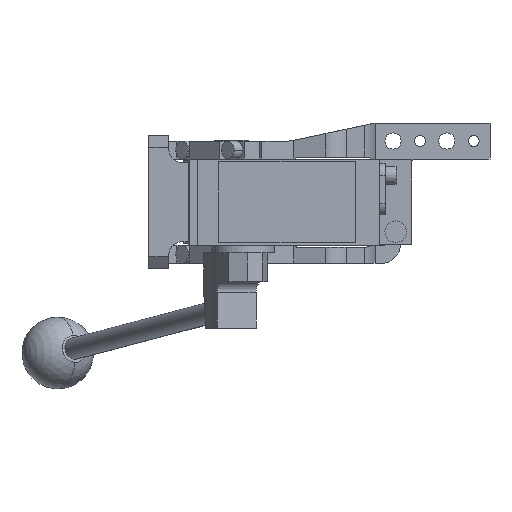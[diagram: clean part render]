
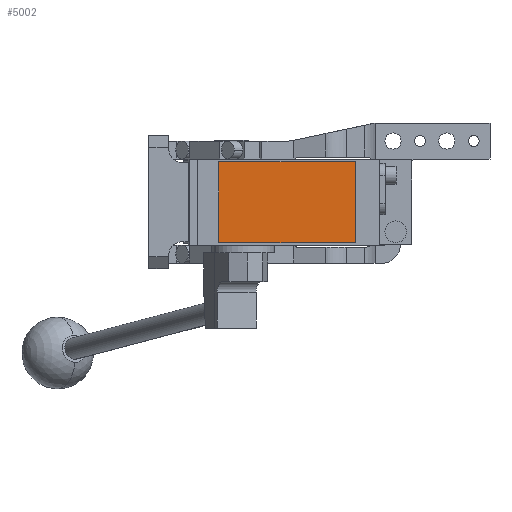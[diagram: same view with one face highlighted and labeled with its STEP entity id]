
A CAD part, front view. The second image highlights one B-rep face of the part: STEP entity #5002.
In plain terms, the highlighted planar face has unit normal (0, -1, 0).
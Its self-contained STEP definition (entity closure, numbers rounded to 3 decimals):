
#44 = LINE ( 'NONE', #8485, #4447 ) ;
#183 = EDGE_LOOP ( 'NONE', ( #1785, #4695, #2662, #9644 ) ) ;
#1282 = EDGE_CURVE ( 'NONE', #6313, #8263, #44, .T. ) ;
#1354 = PLANE ( 'NONE',  #14643 ) ;
#1785 = ORIENTED_EDGE ( 'NONE', *, *, #9894, .T. ) ;
#2582 = CARTESIAN_POINT ( 'NONE',  ( -7., -280.5, -22.5 ) ) ;
#2662 = ORIENTED_EDGE ( 'NONE', *, *, #5509, .T. ) ;
#2906 = VECTOR ( 'NONE', #3226, 1000. ) ;
#3226 = DIRECTION ( 'NONE',  ( 0., 0., -1. ) ) ;
#3658 = CARTESIAN_POINT ( 'NONE',  ( 0., -280.5, 0. ) ) ;
#3747 = DIRECTION ( 'NONE',  ( 0., 0., -1. ) ) ;
#4447 = VECTOR ( 'NONE', #8737, 1000. ) ;
#4695 = ORIENTED_EDGE ( 'NONE', *, *, #7982, .T. ) ;
#5002 = ADVANCED_FACE ( 'NONE', ( #12582 ), #1354, .T. ) ;
#5373 = CARTESIAN_POINT ( 'NONE',  ( 69., -280.5, 22.5 ) ) ;
#5509 = EDGE_CURVE ( 'NONE', #5752, #6313, #12370, .T. ) ;
#5752 = VERTEX_POINT ( 'NONE', #12265 ) ;
#6313 = VERTEX_POINT ( 'NONE', #5373 ) ;
#7240 = VECTOR ( 'NONE', #10057, 1000. ) ;
#7982 = EDGE_CURVE ( 'NONE', #12029, #5752, #10994, .T. ) ;
#8263 = VERTEX_POINT ( 'NONE', #15641 ) ;
#8485 = CARTESIAN_POINT ( 'NONE',  ( -7., -280.5, 22.5 ) ) ;
#8646 = DIRECTION ( 'NONE',  ( 0., -1., 0. ) ) ;
#8737 = DIRECTION ( 'NONE',  ( -1., 0., 0. ) ) ;
#8761 = CARTESIAN_POINT ( 'NONE',  ( -7., -280.5, 22.5 ) ) ;
#8933 = CARTESIAN_POINT ( 'NONE',  ( -7., -280.5, -22.5 ) ) ;
#9644 = ORIENTED_EDGE ( 'NONE', *, *, #1282, .T. ) ;
#9894 = EDGE_CURVE ( 'NONE', #8263, #12029, #11980, .T. ) ;
#10057 = DIRECTION ( 'NONE',  ( 1., 0., 0. ) ) ;
#10994 = LINE ( 'NONE', #2582, #7240 ) ;
#11980 = LINE ( 'NONE', #8761, #2906 ) ;
#12029 = VERTEX_POINT ( 'NONE', #8933 ) ;
#12265 = CARTESIAN_POINT ( 'NONE',  ( 69., -280.5, -22.5 ) ) ;
#12370 = LINE ( 'NONE', #13816, #12727 ) ;
#12582 = FACE_OUTER_BOUND ( 'NONE', #183, .T. ) ;
#12727 = VECTOR ( 'NONE', #13737, 1000. ) ;
#13737 = DIRECTION ( 'NONE',  ( 0., 0., 1. ) ) ;
#13816 = CARTESIAN_POINT ( 'NONE',  ( 69., -280.5, 22.5 ) ) ;
#14643 = AXIS2_PLACEMENT_3D ( 'NONE', #3658, #8646, #3747 ) ;
#15641 = CARTESIAN_POINT ( 'NONE',  ( -7., -280.5, 22.5 ) ) ;
